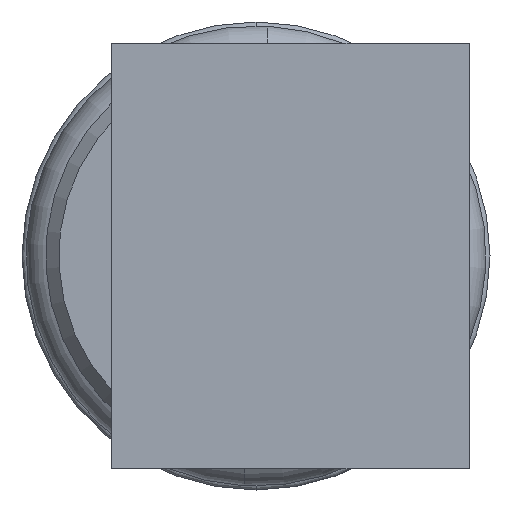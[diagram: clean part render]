
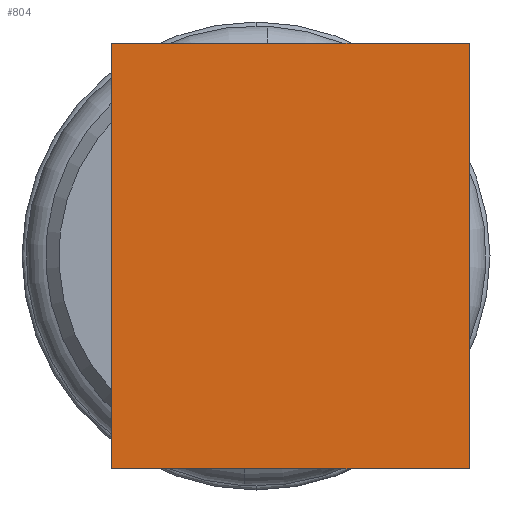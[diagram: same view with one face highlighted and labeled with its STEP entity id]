
A CAD part, left-side view. The second image highlights one B-rep face of the part: STEP entity #804.
In plain terms, the highlighted planar face has unit normal (-1, 0, 0).
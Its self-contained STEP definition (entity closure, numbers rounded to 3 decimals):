
#28 = LINE ( 'NONE', #1812, #327 ) ;
#87 = VECTOR ( 'NONE', #776, 1000. ) ;
#147 = VERTEX_POINT ( 'NONE', #3618 ) ;
#327 = VECTOR ( 'NONE', #2391, 1000. ) ;
#564 = FACE_OUTER_BOUND ( 'NONE', #1753, .T. ) ;
#581 = DIRECTION ( 'NONE',  ( 0., -1., 0. ) ) ;
#776 = DIRECTION ( 'NONE',  ( 0., 0., 1. ) ) ;
#804 = ADVANCED_FACE ( 'NONE', ( #564 ), #850, .T. ) ;
#829 = LINE ( 'NONE', #3577, #87 ) ;
#850 = PLANE ( 'NONE',  #1048 ) ;
#915 = CARTESIAN_POINT ( 'NONE',  ( -175., 5.5, 8.1 ) ) ;
#970 = DIRECTION ( 'NONE',  ( 0., 0., 1. ) ) ;
#1048 = AXIS2_PLACEMENT_3D ( 'NONE', #1711, #2809, #581 ) ;
#1233 = ORIENTED_EDGE ( 'NONE', *, *, #2831, .F. ) ;
#1240 = CARTESIAN_POINT ( 'NONE',  ( -175., -8.113, 8.1 ) ) ;
#1262 = LINE ( 'NONE', #1707, #2899 ) ;
#1343 = VERTEX_POINT ( 'NONE', #1240 ) ;
#1509 = ORIENTED_EDGE ( 'NONE', *, *, #2190, .T. ) ;
#1515 = CARTESIAN_POINT ( 'NONE',  ( -175., 5.5, -15. ) ) ;
#1589 = VECTOR ( 'NONE', #970, 1000. ) ;
#1686 = ORIENTED_EDGE ( 'NONE', *, *, #3441, .F. ) ;
#1707 = CARTESIAN_POINT ( 'NONE',  ( -175., -12.5, -8.1 ) ) ;
#1711 = CARTESIAN_POINT ( 'NONE',  ( -175., -179.63, -15. ) ) ;
#1753 = EDGE_LOOP ( 'NONE', ( #1233, #1509, #3249, #1686 ) ) ;
#1812 = CARTESIAN_POINT ( 'NONE',  ( -175., -12.5, 8.1 ) ) ;
#1893 = VERTEX_POINT ( 'NONE', #915 ) ;
#2190 = EDGE_CURVE ( 'NONE', #147, #1343, #829, .T. ) ;
#2277 = DIRECTION ( 'NONE',  ( 0., 1., 0. ) ) ;
#2391 = DIRECTION ( 'NONE',  ( 0., 1., 0. ) ) ;
#2647 = VERTEX_POINT ( 'NONE', #3061 ) ;
#2809 = DIRECTION ( 'NONE',  ( -1., 0., 0. ) ) ;
#2831 = EDGE_CURVE ( 'NONE', #147, #2647, #1262, .T. ) ;
#2899 = VECTOR ( 'NONE', #2277, 1000. ) ;
#3061 = CARTESIAN_POINT ( 'NONE',  ( -175., 5.5, -8.1 ) ) ;
#3157 = EDGE_CURVE ( 'NONE', #1343, #1893, #28, .T. ) ;
#3249 = ORIENTED_EDGE ( 'NONE', *, *, #3157, .T. ) ;
#3270 = LINE ( 'NONE', #1515, #1589 ) ;
#3441 = EDGE_CURVE ( 'NONE', #2647, #1893, #3270, .T. ) ;
#3577 = CARTESIAN_POINT ( 'NONE',  ( -175., -8.113, -15. ) ) ;
#3618 = CARTESIAN_POINT ( 'NONE',  ( -175., -8.113, -8.1 ) ) ;
